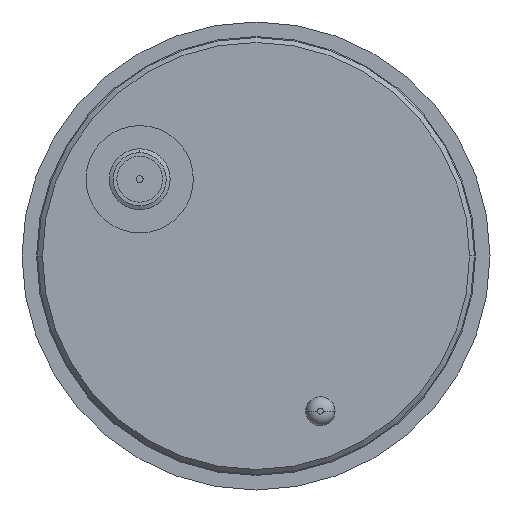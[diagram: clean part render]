
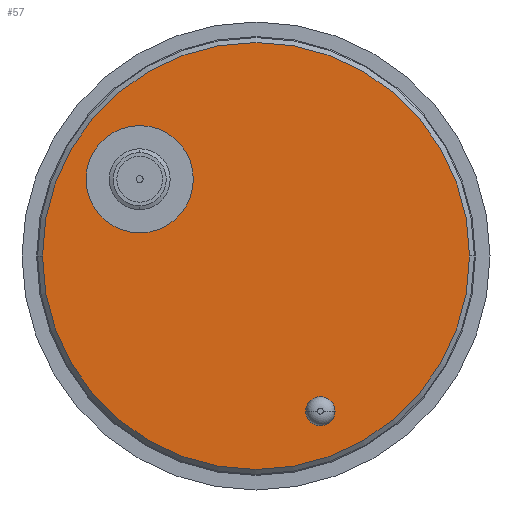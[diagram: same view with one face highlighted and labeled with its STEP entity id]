
A CAD part, front view. The second image highlights one B-rep face of the part: STEP entity #57.
In plain terms, the highlighted planar face has unit normal (0, -1, 0).
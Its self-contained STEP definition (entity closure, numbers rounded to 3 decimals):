
#57 = ADVANCED_FACE ( 'NONE', ( #3856, #3858, #3859 ), #3857, .F. ) ;
#372 = EDGE_CURVE ( 'NONE', #433, #434, #2719, .T. ) ;
#388 = EDGE_CURVE ( 'NONE', #4978, #4977, #2691, .T. ) ;
#433 = VERTEX_POINT ( 'NONE', #1804 ) ;
#434 = VERTEX_POINT ( 'NONE', #1794 ) ;
#558 = EDGE_LOOP ( 'NONE', ( #723, #722 ) ) ;
#722 = ORIENTED_EDGE ( 'NONE', *, *, #2326, .T. ) ;
#723 = ORIENTED_EDGE ( 'NONE', *, *, #388, .T. ) ;
#724 = ORIENTED_EDGE ( 'NONE', *, *, #2325, .F. ) ;
#725 = ORIENTED_EDGE ( 'NONE', *, *, #2293, .F. ) ;
#726 = ORIENTED_EDGE ( 'NONE', *, *, #2324, .T. ) ;
#727 = ORIENTED_EDGE ( 'NONE', *, *, #372, .T. ) ;
#978 = EDGE_LOOP ( 'NONE', ( #727, #726 ) ) ;
#981 = EDGE_LOOP ( 'NONE', ( #725, #724 ) ) ;
#1191 = CARTESIAN_POINT ( 'NONE',  ( 0., 0., 0. ) ) ;
#1192 = DIRECTION ( 'NONE',  ( 0., 1., 0. ) ) ;
#1193 = DIRECTION ( 'NONE',  ( -1., 0., 0. ) ) ;
#1292 = CARTESIAN_POINT ( 'NONE',  ( 6.604, 0., -15.92 ) ) ;
#1293 = DIRECTION ( 'NONE',  ( 0., 1., 0. ) ) ;
#1294 = DIRECTION ( 'NONE',  ( -1., 0., 0. ) ) ;
#1295 = CARTESIAN_POINT ( 'NONE',  ( 0., 0., 0. ) ) ;
#1296 = DIRECTION ( 'NONE',  ( 0., 1., 0. ) ) ;
#1297 = DIRECTION ( 'NONE',  ( -1., 0., 0. ) ) ;
#1298 = CARTESIAN_POINT ( 'NONE',  ( -11.929, 0., 7.875 ) ) ;
#1299 = DIRECTION ( 'NONE',  ( 0., 1., 0. ) ) ;
#1300 = DIRECTION ( 'NONE',  ( 0., 0., 1. ) ) ;
#1626 = CARTESIAN_POINT ( 'NONE',  ( 6.604, 0., -15.92 ) ) ;
#1627 = DIRECTION ( 'NONE',  ( 0., 1., 0. ) ) ;
#1628 = DIRECTION ( 'NONE',  ( -1., 0., 0. ) ) ;
#1673 = CARTESIAN_POINT ( 'NONE',  ( -11.929, 0., 7.875 ) ) ;
#1674 = DIRECTION ( 'NONE',  ( 0., 1., 0. ) ) ;
#1675 = DIRECTION ( 'NONE',  ( 0., 0., 1. ) ) ;
#1794 = CARTESIAN_POINT ( 'NONE',  ( 8.104, 0., -15.92 ) ) ;
#1804 = CARTESIAN_POINT ( 'NONE',  ( 5.104, 0., -15.92 ) ) ;
#2293 = EDGE_CURVE ( 'NONE', #5024, #5011, #2577, .T. ) ;
#2324 = EDGE_CURVE ( 'NONE', #434, #433, #2530, .T. ) ;
#2325 = EDGE_CURVE ( 'NONE', #5011, #5024, #2522, .T. ) ;
#2326 = EDGE_CURVE ( 'NONE', #4977, #4978, #2521, .T. ) ;
#2516 = AXIS2_PLACEMENT_3D ( 'NONE', #1298, #1299, #1300 ) ;
#2520 = AXIS2_PLACEMENT_3D ( 'NONE', #1295, #1296, #1297 ) ;
#2521 = CIRCLE ( 'NONE', #2516, 5.5 ) ;
#2522 = CIRCLE ( 'NONE', #2520, 21.9 ) ;
#2529 = AXIS2_PLACEMENT_3D ( 'NONE', #1292, #1293, #1294 ) ;
#2530 = CIRCLE ( 'NONE', #2529, 1.5 ) ;
#2575 = AXIS2_PLACEMENT_3D ( 'NONE', #1191, #1192, #1193 ) ;
#2577 = CIRCLE ( 'NONE', #2575, 21.9 ) ;
#2689 = AXIS2_PLACEMENT_3D ( 'NONE', #1673, #1674, #1675 ) ;
#2691 = CIRCLE ( 'NONE', #2689, 5.5 ) ;
#2717 = AXIS2_PLACEMENT_3D ( 'NONE', #1626, #1627, #1628 ) ;
#2719 = CIRCLE ( 'NONE', #2717, 1.5 ) ;
#3152 = AXIS2_PLACEMENT_3D ( 'NONE', #3844, #6307, #6308 ) ;
#3844 = CARTESIAN_POINT ( 'NONE',  ( -5.237, 0., 0. ) ) ;
#3856 = FACE_BOUND ( 'NONE', #978, .T. ) ;
#3857 = PLANE ( 'NONE',  #3152 ) ;
#3858 = FACE_OUTER_BOUND ( 'NONE', #981, .T. ) ;
#3859 = FACE_BOUND ( 'NONE', #558, .T. ) ;
#4669 = CARTESIAN_POINT ( 'NONE',  ( -11.929, 0., 13.375 ) ) ;
#4670 = CARTESIAN_POINT ( 'NONE',  ( -11.929, 0., 2.375 ) ) ;
#4703 = CARTESIAN_POINT ( 'NONE',  ( 21.9, 0., 0. ) ) ;
#4716 = CARTESIAN_POINT ( 'NONE',  ( -21.9, 0., 0. ) ) ;
#4977 = VERTEX_POINT ( 'NONE', #4669 ) ;
#4978 = VERTEX_POINT ( 'NONE', #4670 ) ;
#5011 = VERTEX_POINT ( 'NONE', #4703 ) ;
#5024 = VERTEX_POINT ( 'NONE', #4716 ) ;
#6307 = DIRECTION ( 'NONE',  ( 0., 1., 0. ) ) ;
#6308 = DIRECTION ( 'NONE',  ( -1., 0., 0. ) ) ;
